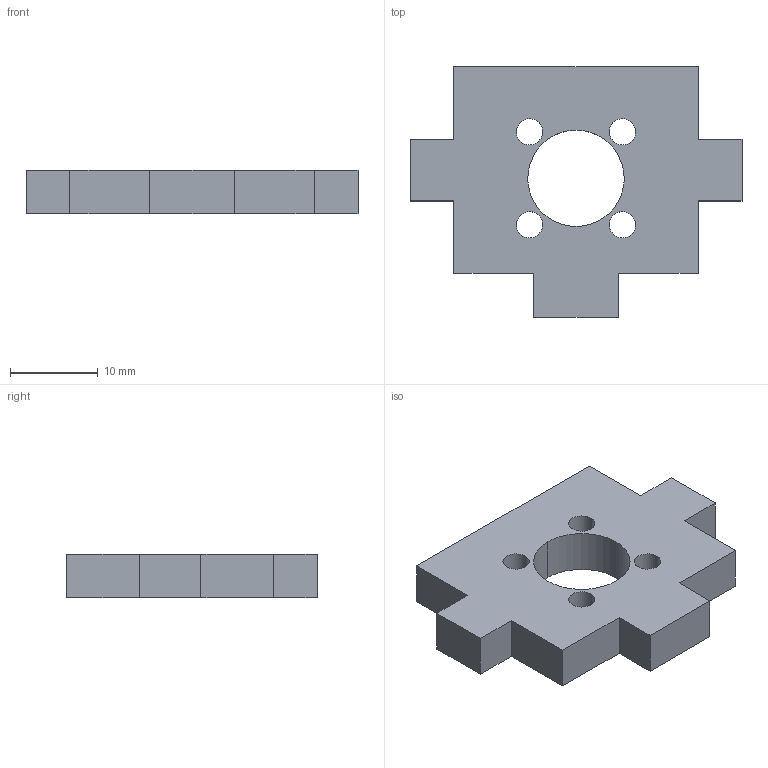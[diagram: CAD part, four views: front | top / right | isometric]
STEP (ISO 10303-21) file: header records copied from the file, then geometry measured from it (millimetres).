
FILE_DESCRIPTION(/* description */ (''),/* implementation_level */ '2;1');
FILE_NAME(/* name */ 'SOA06C~1',/* time_stamp */ '2019-04-01T21:23:03-03:00',/* author */ (''),/* organization */ (''),/* preprocessor_version */ 'ST-DEVELOPER v16.5',/* originating_system */ '',/* authorisation */ '');
FILE_SCHEMA (('AUTOMOTIVE_DESIGN'));
Length unit declared in the file: millimetre
Products named in the file (1): Document
Bounding box: 37.89 x 28.58 x 5 mm (x, y, z)
Volume: 3266.1 mm3; surface area: 2332.8 mm2
Topology: 1 solids, 1 shells, 30 faces, 84 edges, 56 vertices
Faces by surface type: plane 18, bspline 12
Entity records: 1019 total; most frequent: CARTESIAN_POINT 474, ORIENTED_EDGE 168, EDGE_CURVE 84, VERTEX_POINT 56, B_SPLINE_CURVE_WITH_KNOTS 48, EDGE_LOOP 40, ADVANCED_FACE 30, FACE_OUTER_BOUND 30
